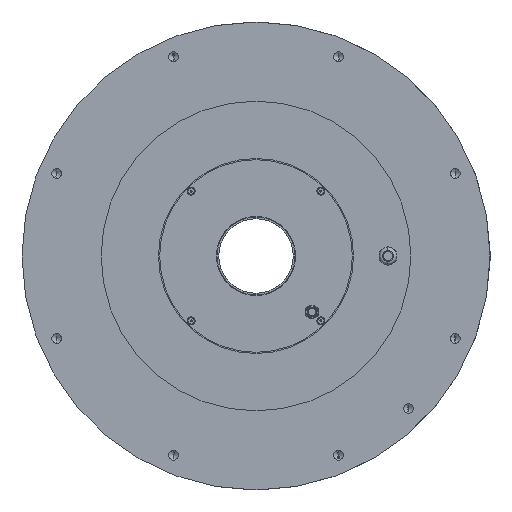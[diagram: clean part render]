
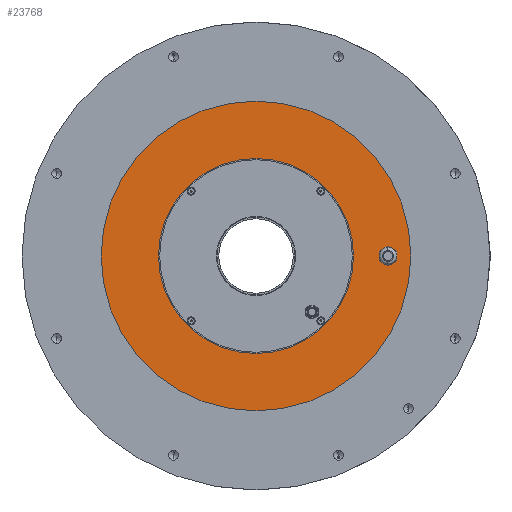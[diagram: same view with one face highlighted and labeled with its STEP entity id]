
A CAD part, front view. The second image highlights one B-rep face of the part: STEP entity #23768.
In plain terms, the highlighted planar face has unit normal (0, -1, 0).
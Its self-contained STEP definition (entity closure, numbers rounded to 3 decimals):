
#34 = CARTESIAN_POINT ( 'NONE',  ( 85., 0., 0. ) ) ;
#337 = CARTESIAN_POINT ( 'NONE',  ( 115., 0., 0. ) ) ;
#497 = DIRECTION ( 'NONE',  ( 0., -1., 0. ) ) ;
#566 = FACE_BOUND ( 'NONE', #3314, .T. ) ;
#1681 = VERTEX_POINT ( 'NONE', #15497 ) ;
#1814 = DIRECTION ( 'NONE',  ( 0., -1., 0. ) ) ;
#1866 = AXIS2_PLACEMENT_3D ( 'NONE', #7183, #28421, #22987 ) ;
#1909 = CARTESIAN_POINT ( 'NONE',  ( 0., 0., 0. ) ) ;
#2953 = AXIS2_PLACEMENT_3D ( 'NONE', #6825, #24754, #27922 ) ;
#3314 = EDGE_LOOP ( 'NONE', ( #14202, #13140 ) ) ;
#3374 = DIRECTION ( 'NONE',  ( 0., 0., -1. ) ) ;
#3381 = CARTESIAN_POINT ( 'NONE',  ( 0., 0., 135. ) ) ;
#5334 = CIRCLE ( 'NONE', #13211, 7.25 ) ;
#5375 = VERTEX_POINT ( 'NONE', #17087 ) ;
#5427 = VERTEX_POINT ( 'NONE', #3381 ) ;
#5654 = FACE_OUTER_BOUND ( 'NONE', #8444, .T. ) ;
#6306 = DIRECTION ( 'NONE',  ( 0., 0., -1. ) ) ;
#6578 = DIRECTION ( 'NONE',  ( 0., 0., -1. ) ) ;
#6825 = CARTESIAN_POINT ( 'NONE',  ( 115., 0., 0. ) ) ;
#7183 = CARTESIAN_POINT ( 'NONE',  ( 0., 0., 0. ) ) ;
#7274 = CARTESIAN_POINT ( 'NONE',  ( 0., 0., 0. ) ) ;
#7881 = DIRECTION ( 'NONE',  ( 0., 1., 0. ) ) ;
#8444 = EDGE_LOOP ( 'NONE', ( #26286, #20059 ) ) ;
#9316 = DIRECTION ( 'NONE',  ( 0., -1., 0. ) ) ;
#9746 = CIRCLE ( 'NONE', #1866, 85. ) ;
#12181 = EDGE_CURVE ( 'NONE', #5375, #24002, #9746, .T. ) ;
#12691 = CARTESIAN_POINT ( 'NONE',  ( 0., 0., 85. ) ) ;
#13140 = ORIENTED_EDGE ( 'NONE', *, *, #30969, .F. ) ;
#13211 = AXIS2_PLACEMENT_3D ( 'NONE', #337, #7881, #16162 ) ;
#14108 = EDGE_CURVE ( 'NONE', #1681, #5427, #32087, .T. ) ;
#14202 = ORIENTED_EDGE ( 'NONE', *, *, #12181, .F. ) ;
#15386 = CARTESIAN_POINT ( 'NONE',  ( 115., 0., -7.25 ) ) ;
#15497 = CARTESIAN_POINT ( 'NONE',  ( 0., 0., -135. ) ) ;
#16042 = VERTEX_POINT ( 'NONE', #29033 ) ;
#16162 = DIRECTION ( 'NONE',  ( 0., 0., 1. ) ) ;
#16317 = DIRECTION ( 'NONE',  ( 0., 0., -1. ) ) ;
#16352 = CARTESIAN_POINT ( 'NONE',  ( 0., 0., 0. ) ) ;
#16997 = AXIS2_PLACEMENT_3D ( 'NONE', #7274, #1814, #6578 ) ;
#17087 = CARTESIAN_POINT ( 'NONE',  ( 0., 0., -85. ) ) ;
#19020 = PLANE ( 'NONE',  #24037 ) ;
#19544 = ORIENTED_EDGE ( 'NONE', *, *, #20898, .T. ) ;
#19778 = EDGE_CURVE ( 'NONE', #5427, #1681, #33130, .T. ) ;
#20059 = ORIENTED_EDGE ( 'NONE', *, *, #19778, .T. ) ;
#20295 = AXIS2_PLACEMENT_3D ( 'NONE', #16352, #9316, #6306 ) ;
#20898 = EDGE_CURVE ( 'NONE', #31441, #16042, #27657, .T. ) ;
#22987 = DIRECTION ( 'NONE',  ( 0., 0., -1. ) ) ;
#23768 = ADVANCED_FACE ( 'NONE', ( #24623, #5654, #566 ), #19020, .T. ) ;
#24002 = VERTEX_POINT ( 'NONE', #12691 ) ;
#24037 = AXIS2_PLACEMENT_3D ( 'NONE', #34, #32152, #3374 ) ;
#24623 = FACE_BOUND ( 'NONE', #33538, .T. ) ;
#24754 = DIRECTION ( 'NONE',  ( 0., 1., 0. ) ) ;
#25546 = CIRCLE ( 'NONE', #27810, 85. ) ;
#26286 = ORIENTED_EDGE ( 'NONE', *, *, #14108, .T. ) ;
#26517 = EDGE_CURVE ( 'NONE', #16042, #31441, #5334, .T. ) ;
#27657 = CIRCLE ( 'NONE', #2953, 7.25 ) ;
#27810 = AXIS2_PLACEMENT_3D ( 'NONE', #1909, #497, #16317 ) ;
#27922 = DIRECTION ( 'NONE',  ( 0., 0., 1. ) ) ;
#28421 = DIRECTION ( 'NONE',  ( 0., -1., 0. ) ) ;
#29033 = CARTESIAN_POINT ( 'NONE',  ( 115., 0., 7.25 ) ) ;
#30163 = ORIENTED_EDGE ( 'NONE', *, *, #26517, .T. ) ;
#30969 = EDGE_CURVE ( 'NONE', #24002, #5375, #25546, .T. ) ;
#31441 = VERTEX_POINT ( 'NONE', #15386 ) ;
#32087 = CIRCLE ( 'NONE', #16997, 135. ) ;
#32152 = DIRECTION ( 'NONE',  ( 0., -1., 0. ) ) ;
#33130 = CIRCLE ( 'NONE', #20295, 135. ) ;
#33538 = EDGE_LOOP ( 'NONE', ( #30163, #19544 ) ) ;
